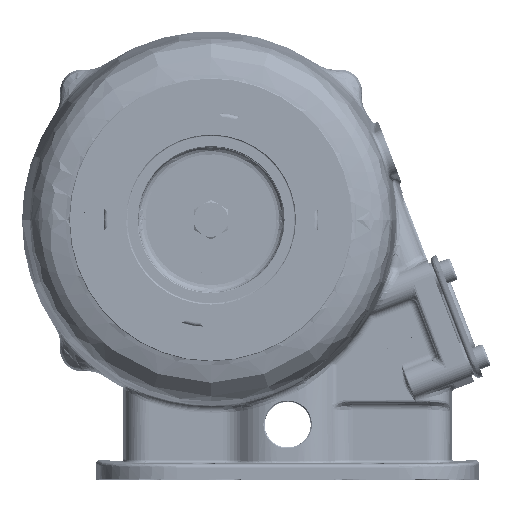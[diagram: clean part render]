
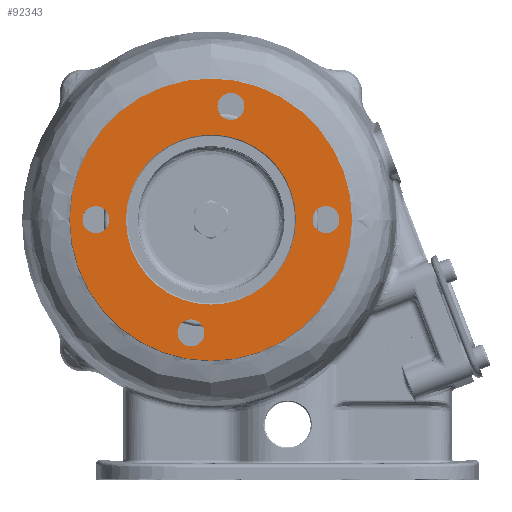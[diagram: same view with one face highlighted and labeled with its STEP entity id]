
A CAD part, top view. The second image highlights one B-rep face of the part: STEP entity #92343.
In plain terms, the highlighted planar face has unit normal (0, 0, 1) as drawn and (-1, 0, 0) by its records, which use the part's own axes.
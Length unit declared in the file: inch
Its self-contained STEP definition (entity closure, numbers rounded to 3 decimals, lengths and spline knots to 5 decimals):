
#203 = DIRECTION ( 'NONE',  ( 0., 0., -1. ) ) ;
#1989 = DIRECTION ( 'NONE',  ( 1., 0., 0. ) ) ;
#2535 = CARTESIAN_POINT ( 'NONE',  ( 0., 0.326, -1.84644 ) ) ;
#3073 = ORIENTED_EDGE ( 'NONE', *, *, #119954, .T. ) ;
#4242 = VERTEX_POINT ( 'NONE', #174323 ) ;
#5555 = DIRECTION ( 'NONE',  ( 1., 0., 0. ) ) ;
#9221 = DIRECTION ( 'NONE',  ( 1., 0., 0. ) ) ;
#10125 = DIRECTION ( 'NONE',  ( 0., 0., 1. ) ) ;
#12454 = EDGE_CURVE ( 'NONE', #155397, #27637, #51731, .T. ) ;
#12987 = EDGE_CURVE ( 'NONE', #25836, #63825, #80987, .T. ) ;
#17625 = CARTESIAN_POINT ( 'NONE',  ( 0., 0., 0. ) ) ;
#20324 = DIRECTION ( 'NONE',  ( 0., 0., 1. ) ) ;
#21074 = AXIS2_PLACEMENT_3D ( 'NONE', #100769, #5555, #129149 ) ;
#21897 = DIRECTION ( 'NONE',  ( 0., 1., 0. ) ) ;
#22123 = DIRECTION ( 'NONE',  ( -1., 0., 0. ) ) ;
#22702 = AXIS2_PLACEMENT_3D ( 'NONE', #76461, #94712, #67253 ) ;
#23219 = CIRCLE ( 'NONE', #78667, 0.22 ) ;
#25588 = EDGE_CURVE ( 'NONE', #63825, #25836, #69108, .T. ) ;
#25836 = VERTEX_POINT ( 'NONE', #174025 ) ;
#26058 = ORIENTED_EDGE ( 'NONE', *, *, #25588, .T. ) ;
#27637 = VERTEX_POINT ( 'NONE', #65975 ) ;
#27658 = AXIS2_PLACEMENT_3D ( 'NONE', #2535, #157192, #45554 ) ;
#28047 = CIRCLE ( 'NONE', #104053, 0.22 ) ;
#29530 = DIRECTION ( 'NONE',  ( 0., 0., 1. ) ) ;
#30418 = DIRECTION ( 'NONE',  ( -1., 0., 0. ) ) ;
#31121 = AXIS2_PLACEMENT_3D ( 'NONE', #17625, #98153, #29530 ) ;
#33137 = FACE_OUTER_BOUND ( 'NONE', #71035, .T. ) ;
#34034 = FACE_BOUND ( 'NONE', #49247, .T. ) ;
#37810 = VERTEX_POINT ( 'NONE', #162650 ) ;
#41182 = CARTESIAN_POINT ( 'NONE',  ( 0., 0., -1.3855 ) ) ;
#43407 = VERTEX_POINT ( 'NONE', #93542 ) ;
#44146 = DIRECTION ( 'NONE',  ( 0., 0., -1. ) ) ;
#45554 = DIRECTION ( 'NONE',  ( 0., 1., 0. ) ) ;
#46662 = CARTESIAN_POINT ( 'NONE',  ( 0., -0.326, 1.84644 ) ) ;
#48635 = FACE_BOUND ( 'NONE', #68589, .T. ) ;
#48769 = CIRCLE ( 'NONE', #80913, 2.3 ) ;
#48978 = EDGE_CURVE ( 'NONE', #37810, #89271, #23219, .T. ) ;
#49082 = DIRECTION ( 'NONE',  ( 0., 0., -1. ) ) ;
#49247 = EDGE_LOOP ( 'NONE', ( #115922, #60348 ) ) ;
#49346 = DIRECTION ( 'NONE',  ( 0., 0., -1. ) ) ;
#50874 = DIRECTION ( 'NONE',  ( -1., 0., 0. ) ) ;
#51731 = CIRCLE ( 'NONE', #75121, 0.22 ) ;
#54777 = CIRCLE ( 'NONE', #22702, 0.22 ) ;
#55603 = AXIS2_PLACEMENT_3D ( 'NONE', #141131, #30418, #44146 ) ;
#59185 = CARTESIAN_POINT ( 'NONE',  ( 0., 0.546, -1.84644 ) ) ;
#60348 = ORIENTED_EDGE ( 'NONE', *, *, #77298, .T. ) ;
#61942 = EDGE_CURVE ( 'NONE', #4242, #94447, #97782, .T. ) ;
#63825 = VERTEX_POINT ( 'NONE', #41182 ) ;
#64185 = FACE_BOUND ( 'NONE', #172657, .T. ) ;
#65045 = CARTESIAN_POINT ( 'NONE',  ( 0., 1.875, 0. ) ) ;
#65309 = ORIENTED_EDGE ( 'NONE', *, *, #72546, .T. ) ;
#65975 = CARTESIAN_POINT ( 'NONE',  ( 0., -1.655, 0. ) ) ;
#67253 = DIRECTION ( 'NONE',  ( 0., 0., -1. ) ) ;
#68589 = EDGE_LOOP ( 'NONE', ( #65309, #148884 ) ) ;
#69108 = CIRCLE ( 'NONE', #31121, 1.3855 ) ;
#71035 = EDGE_LOOP ( 'NONE', ( #145014, #129272 ) ) ;
#72546 = EDGE_CURVE ( 'NONE', #89271, #37810, #54777, .T. ) ;
#75121 = AXIS2_PLACEMENT_3D ( 'NONE', #125574, #1989, #129190 ) ;
#76461 = CARTESIAN_POINT ( 'NONE',  ( 0., -0.326, 1.84644 ) ) ;
#77298 = EDGE_CURVE ( 'NONE', #94447, #4242, #170993, .T. ) ;
#78667 = AXIS2_PLACEMENT_3D ( 'NONE', #46662, #118926, #49346 ) ;
#80913 = AXIS2_PLACEMENT_3D ( 'NONE', #132392, #50874, #49082 ) ;
#80987 = CIRCLE ( 'NONE', #95637, 1.3855 ) ;
#84096 = VERTEX_POINT ( 'NONE', #142280 ) ;
#89271 = VERTEX_POINT ( 'NONE', #155309 ) ;
#92343 = ADVANCED_FACE ( 'NONE', ( #33137, #48635, #34034, #64185, #159390, #116416 ), #173134, .T. ) ;
#93542 = CARTESIAN_POINT ( 'NONE',  ( 0., 0.106, -1.84644 ) ) ;
#94447 = VERTEX_POINT ( 'NONE', #127390 ) ;
#94589 = ORIENTED_EDGE ( 'NONE', *, *, #12454, .T. ) ;
#94712 = DIRECTION ( 'NONE',  ( 1., 0., 0. ) ) ;
#95637 = AXIS2_PLACEMENT_3D ( 'NONE', #121789, #9221, #10125 ) ;
#96888 = ORIENTED_EDGE ( 'NONE', *, *, #158977, .T. ) ;
#97782 = CIRCLE ( 'NONE', #118305, 0.22 ) ;
#97784 = CIRCLE ( 'NONE', #27658, 0.22 ) ;
#98153 = DIRECTION ( 'NONE',  ( 1., 0., 0. ) ) ;
#99949 = CIRCLE ( 'NONE', #21074, 0.22 ) ;
#100769 = CARTESIAN_POINT ( 'NONE',  ( 0., -1.875, 0. ) ) ;
#104053 = AXIS2_PLACEMENT_3D ( 'NONE', #132629, #104257, #21897 ) ;
#104257 = DIRECTION ( 'NONE',  ( 1., 0., 0. ) ) ;
#104430 = DIRECTION ( 'NONE',  ( 1., 0., 0. ) ) ;
#106529 = CARTESIAN_POINT ( 'NONE',  ( 0., 0., 2.3 ) ) ;
#108518 = EDGE_CURVE ( 'NONE', #84096, #140655, #146278, .T. ) ;
#113229 = EDGE_LOOP ( 'NONE', ( #163611, #26058 ) ) ;
#115922 = ORIENTED_EDGE ( 'NONE', *, *, #61942, .T. ) ;
#116416 = FACE_BOUND ( 'NONE', #113229, .T. ) ;
#118305 = AXIS2_PLACEMENT_3D ( 'NONE', #169507, #138427, #203 ) ;
#118926 = DIRECTION ( 'NONE',  ( 1., 0., 0. ) ) ;
#119954 = EDGE_CURVE ( 'NONE', #43407, #168865, #28047, .T. ) ;
#120875 = DIRECTION ( 'NONE',  ( 0., 0., -1. ) ) ;
#121789 = CARTESIAN_POINT ( 'NONE',  ( 0., 0., 0. ) ) ;
#122032 = EDGE_CURVE ( 'NONE', #140655, #84096, #48769, .T. ) ;
#124222 = AXIS2_PLACEMENT_3D ( 'NONE', #65045, #104430, #120875 ) ;
#125574 = CARTESIAN_POINT ( 'NONE',  ( 0., -1.875, 0. ) ) ;
#127390 = CARTESIAN_POINT ( 'NONE',  ( 0., 1.875, 0.22 ) ) ;
#129149 = DIRECTION ( 'NONE',  ( 0., 1., 0. ) ) ;
#129190 = DIRECTION ( 'NONE',  ( 0., 1., 0. ) ) ;
#129272 = ORIENTED_EDGE ( 'NONE', *, *, #122032, .T. ) ;
#131963 = CARTESIAN_POINT ( 'NONE',  ( 0., 1.84275, 0. ) ) ;
#132392 = CARTESIAN_POINT ( 'NONE',  ( 0., 0., 0. ) ) ;
#132629 = CARTESIAN_POINT ( 'NONE',  ( 0., 0.326, -1.84644 ) ) ;
#136903 = ORIENTED_EDGE ( 'NONE', *, *, #177640, .T. ) ;
#138427 = DIRECTION ( 'NONE',  ( 1., 0., 0. ) ) ;
#140655 = VERTEX_POINT ( 'NONE', #106529 ) ;
#141131 = CARTESIAN_POINT ( 'NONE',  ( 0., 0., 0. ) ) ;
#142280 = CARTESIAN_POINT ( 'NONE',  ( 0., 0., -2.3 ) ) ;
#145014 = ORIENTED_EDGE ( 'NONE', *, *, #108518, .T. ) ;
#146278 = CIRCLE ( 'NONE', #55603, 2.3 ) ;
#148884 = ORIENTED_EDGE ( 'NONE', *, *, #48978, .T. ) ;
#154087 = EDGE_LOOP ( 'NONE', ( #96888, #94589 ) ) ;
#154878 = AXIS2_PLACEMENT_3D ( 'NONE', #131963, #22123, #20324 ) ;
#155309 = CARTESIAN_POINT ( 'NONE',  ( 0., -0.326, 1.62644 ) ) ;
#155397 = VERTEX_POINT ( 'NONE', #180365 ) ;
#157192 = DIRECTION ( 'NONE',  ( 1., 0., 0. ) ) ;
#158977 = EDGE_CURVE ( 'NONE', #27637, #155397, #99949, .T. ) ;
#159390 = FACE_BOUND ( 'NONE', #154087, .T. ) ;
#162650 = CARTESIAN_POINT ( 'NONE',  ( 0., -0.326, 2.06644 ) ) ;
#163611 = ORIENTED_EDGE ( 'NONE', *, *, #12987, .T. ) ;
#168865 = VERTEX_POINT ( 'NONE', #59185 ) ;
#169507 = CARTESIAN_POINT ( 'NONE',  ( 0., 1.875, 0. ) ) ;
#170993 = CIRCLE ( 'NONE', #124222, 0.22 ) ;
#172657 = EDGE_LOOP ( 'NONE', ( #136903, #3073 ) ) ;
#173134 = PLANE ( 'NONE',  #154878 ) ;
#174025 = CARTESIAN_POINT ( 'NONE',  ( 0., 0., 1.3855 ) ) ;
#174323 = CARTESIAN_POINT ( 'NONE',  ( 0., 1.875, -0.22 ) ) ;
#177640 = EDGE_CURVE ( 'NONE', #168865, #43407, #97784, .T. ) ;
#180365 = CARTESIAN_POINT ( 'NONE',  ( 0., -2.095, 0. ) ) ;
